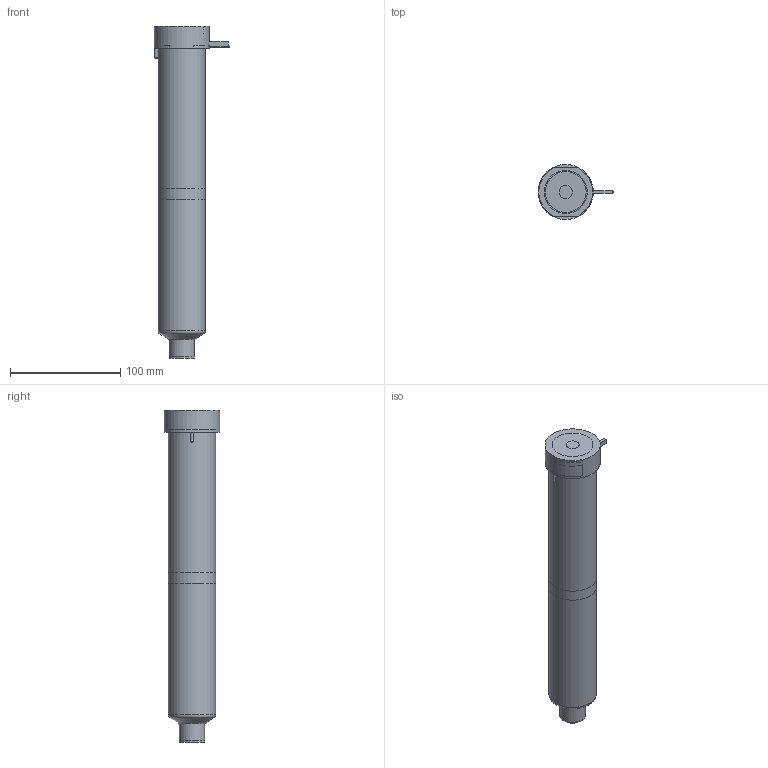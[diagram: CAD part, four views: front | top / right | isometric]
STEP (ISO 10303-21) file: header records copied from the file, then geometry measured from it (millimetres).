
FILE_DESCRIPTION(/* description */ (''),/* implementation_level */ '2;1');
FILE_NAME(/* name */ 'BXTSN-BXISN-BXOSN27275_250C_b',/* time_stamp */ '2007-01-25T15:53:04+13:00',/* author */ (''),/* organization */ (''),/* preprocessor_version */ 'ST-DEVELOPER v9',/* originating_system */ 'UGS - NX 4.0',/* authorisation */ '');
FILE_SCHEMA (('CONFIG_CONTROL_DESIGN'));
Length unit declared in the file: millimetre
Products named in the file (1): BXTSN-BXISN-BXOSN27275_250C_b
Bounding box: 68.6 x 50 x 301.12 mm (x, y, z)
Volume: 778286.8 mm3; surface area: 88694.2 mm2
Topology: 6 solids, 6 shells, 74 faces, 148 edges, 96 vertices
Faces by surface type: plane 33, cylinder 23, cone 9, torus 8, bspline 1
Full cylindrical faces by diameter (mm): 1 x3, 2 x1, 2.5 x2, 12 x1, 22.61 x1, 23.01 x2, 27.5 x1, 38.1 x1, 43 x2, 50 x1
Entity records: 1987 total; most frequent: CARTESIAN_POINT 481, DIRECTION 312, ORIENTED_EDGE 230, AXIS2_PLACEMENT_3D 137, EDGE_CURVE 115, EDGE_LOOP 110, VERTEX_POINT 90, ADVANCED_FACE 74
